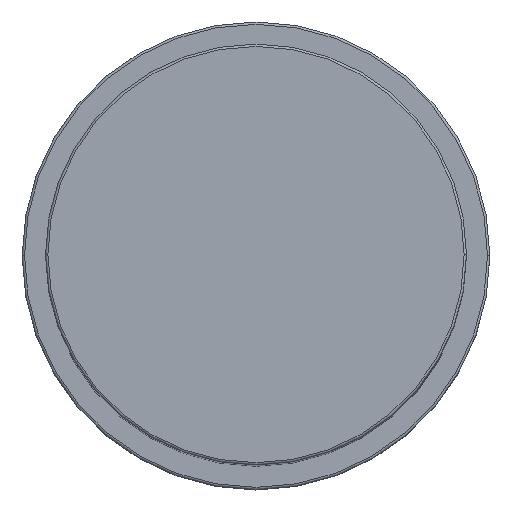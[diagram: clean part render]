
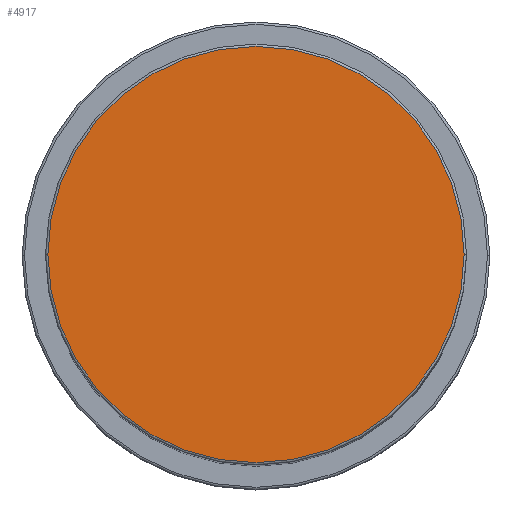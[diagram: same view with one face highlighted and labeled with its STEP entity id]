
A CAD part, top view. The second image highlights one B-rep face of the part: STEP entity #4917.
In plain terms, the highlighted planar face has unit normal (0, 0, 1).
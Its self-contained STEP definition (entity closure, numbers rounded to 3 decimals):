
#1221 = ORIENTED_EDGE ( 'NONE', *, *, #1233, .T. ) ;
#1233 = EDGE_CURVE ( 'NONE', #2567, #7160, #5377, .T. ) ;
#1381 = DIRECTION ( 'NONE',  ( 1., 0., 0. ) ) ;
#1645 = EDGE_LOOP ( 'NONE', ( #1221, #2113 ) ) ;
#1880 = CARTESIAN_POINT ( 'NONE',  ( 0., 0., 179. ) ) ;
#1980 = CARTESIAN_POINT ( 'NONE',  ( 44.5, 0., 179. ) ) ;
#2090 = DIRECTION ( 'NONE',  ( 0., 0., 1. ) ) ;
#2113 = ORIENTED_EDGE ( 'NONE', *, *, #7159, .T. ) ;
#2567 = VERTEX_POINT ( 'NONE', #1980 ) ;
#2658 = DIRECTION ( 'NONE',  ( 1., 0., 0. ) ) ;
#3092 = PLANE ( 'NONE',  #6389 ) ;
#3165 = CARTESIAN_POINT ( 'NONE',  ( 0., 0., 179. ) ) ;
#3672 = DIRECTION ( 'NONE',  ( 0., 0., 1. ) ) ;
#4171 = FACE_OUTER_BOUND ( 'NONE', #1645, .T. ) ;
#4706 = DIRECTION ( 'NONE',  ( 1., 0., 0. ) ) ;
#4862 = AXIS2_PLACEMENT_3D ( 'NONE', #1880, #5823, #4706 ) ;
#4917 = ADVANCED_FACE ( 'NONE', ( #4171 ), #3092, .T. ) ;
#5377 = CIRCLE ( 'NONE', #4862, 44.5 ) ;
#5427 = CARTESIAN_POINT ( 'NONE',  ( -44.5, 0., 179. ) ) ;
#5823 = DIRECTION ( 'NONE',  ( 0., 0., 1. ) ) ;
#6214 = CIRCLE ( 'NONE', #6369, 44.5 ) ;
#6369 = AXIS2_PLACEMENT_3D ( 'NONE', #3165, #2090, #2658 ) ;
#6389 = AXIS2_PLACEMENT_3D ( 'NONE', #6493, #3672, #1381 ) ;
#6493 = CARTESIAN_POINT ( 'NONE',  ( 0., 0., 179. ) ) ;
#7159 = EDGE_CURVE ( 'NONE', #7160, #2567, #6214, .T. ) ;
#7160 = VERTEX_POINT ( 'NONE', #5427 ) ;
